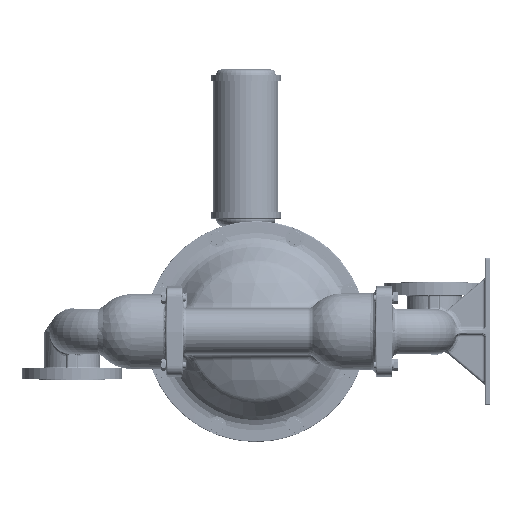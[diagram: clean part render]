
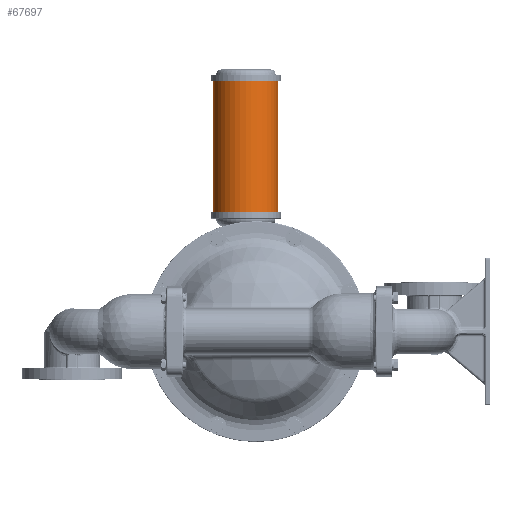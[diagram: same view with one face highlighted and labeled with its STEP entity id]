
A CAD part, left-side view. The second image highlights one B-rep face of the part: STEP entity #67697.
In plain terms, the highlighted cylindrical face has radius 61.722 mm (diameter 123.444 mm), a partial arc.
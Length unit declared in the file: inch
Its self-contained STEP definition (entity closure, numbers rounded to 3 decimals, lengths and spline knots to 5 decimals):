
#8457 = CARTESIAN_POINT ( 'NONE',  ( 0., 3.18, 8.965 ) ) ;
#11301 = EDGE_CURVE ( 'NONE', #74044, #405022, #439167, .T. ) ;
#11472 = CARTESIAN_POINT ( 'NONE',  ( 0., -1.68, 8.965 ) ) ;
#14625 = DIRECTION ( 'NONE',  ( 0., 0., 1. ) ) ;
#14721 = DIRECTION ( 'NONE',  ( 0., 1., 0. ) ) ;
#35279 = CARTESIAN_POINT ( 'NONE',  ( 0., 0.75, 8.965 ) ) ;
#49663 = AXIS2_PLACEMENT_3D ( 'NONE', #35279, #516242, #79332 ) ;
#54831 = EDGE_LOOP ( 'NONE', ( #493545, #71358, #166692, #73633 ) ) ;
#56644 = CARTESIAN_POINT ( 'NONE',  ( 0., -1.68, 18.745 ) ) ;
#61923 = DIRECTION ( 'NONE',  ( 0., 0., 1. ) ) ;
#67697 = ADVANCED_FACE ( 'NONE', ( #568679 ), #550894, .T. ) ;
#71358 = ORIENTED_EDGE ( 'NONE', *, *, #83492, .T. ) ;
#73633 = ORIENTED_EDGE ( 'NONE', *, *, #11301, .F. ) ;
#74044 = VERTEX_POINT ( 'NONE', #582655 ) ;
#79332 = DIRECTION ( 'NONE',  ( 0., 1., 0. ) ) ;
#80803 = AXIS2_PLACEMENT_3D ( 'NONE', #300834, #61923, #14721 ) ;
#83492 = EDGE_CURVE ( 'NONE', #555986, #166560, #479326, .T. ) ;
#97119 = VECTOR ( 'NONE', #136762, 39.37008 ) ;
#131745 = DIRECTION ( 'NONE',  ( 0., 0., -1. ) ) ;
#136762 = DIRECTION ( 'NONE',  ( 0., 0., 1. ) ) ;
#137933 = CARTESIAN_POINT ( 'NONE',  ( 0., 0.75, 20.2325 ) ) ;
#166560 = VERTEX_POINT ( 'NONE', #56644 ) ;
#166692 = ORIENTED_EDGE ( 'NONE', *, *, #200279, .F. ) ;
#200279 = EDGE_CURVE ( 'NONE', #405022, #166560, #351841, .T. ) ;
#257982 = CARTESIAN_POINT ( 'NONE',  ( 0., 3.18, 18.745 ) ) ;
#263768 = AXIS2_PLACEMENT_3D ( 'NONE', #137933, #131745, #282540 ) ;
#282540 = DIRECTION ( 'NONE',  ( 0., -1., 0. ) ) ;
#300834 = CARTESIAN_POINT ( 'NONE',  ( 0., 0.75, 18.745 ) ) ;
#309977 = EDGE_CURVE ( 'NONE', #74044, #555986, #511914, .T. ) ;
#351841 = CIRCLE ( 'NONE', #80803, 2.43 ) ;
#405022 = VERTEX_POINT ( 'NONE', #257982 ) ;
#439167 = LINE ( 'NONE', #8457, #591856 ) ;
#479326 = LINE ( 'NONE', #614688, #97119 ) ;
#493545 = ORIENTED_EDGE ( 'NONE', *, *, #309977, .T. ) ;
#511914 = CIRCLE ( 'NONE', #49663, 2.43 ) ;
#516242 = DIRECTION ( 'NONE',  ( 0., 0., 1. ) ) ;
#550894 = CYLINDRICAL_SURFACE ( 'NONE', #263768, 2.43 ) ;
#555986 = VERTEX_POINT ( 'NONE', #11472 ) ;
#568679 = FACE_OUTER_BOUND ( 'NONE', #54831, .T. ) ;
#582655 = CARTESIAN_POINT ( 'NONE',  ( 0., 3.18, 8.965 ) ) ;
#591856 = VECTOR ( 'NONE', #14625, 39.37008 ) ;
#614688 = CARTESIAN_POINT ( 'NONE',  ( 0., -1.68, 8.965 ) ) ;
